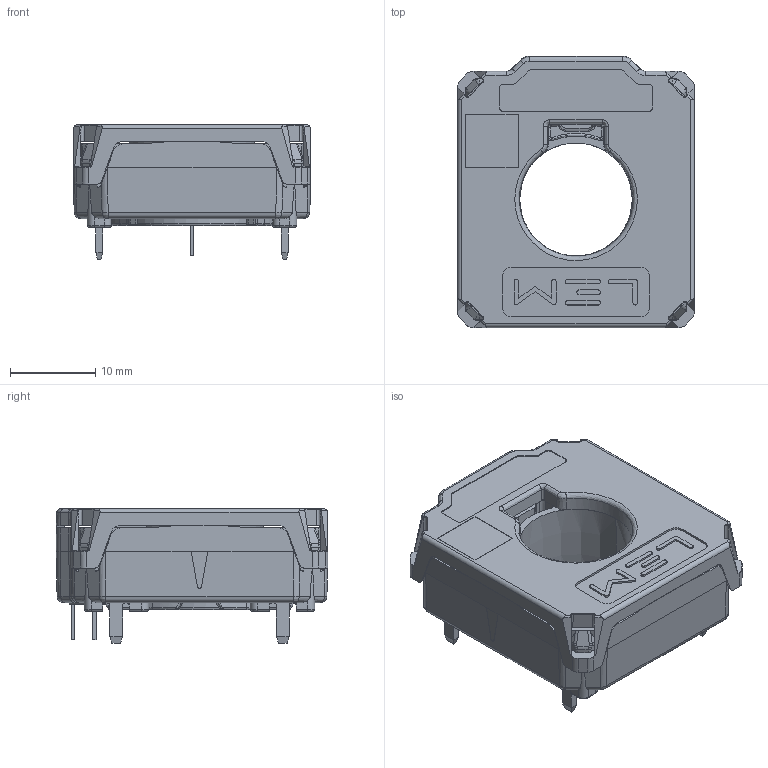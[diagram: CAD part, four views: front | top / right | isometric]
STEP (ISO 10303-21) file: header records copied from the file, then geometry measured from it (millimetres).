
FILE_DESCRIPTION(('Creo Elements/Direct Modeling STEP Export'),'2;1');
FILE_NAME('BBOX-HC5FL.stp','2024-08-01T10:34:32',(''),(''),'Creo Elements/Direct Modeling STEP processor for AP214 (Solid Model)','Creo Elements/Direct Modeling 20.3D 14-Nov-2022 (C) Parametric Technology GmbH','');
FILE_SCHEMA(('AUTOMOTIVE_DESIGN { 1 0 10303 214 1 1 1 1 }'));
Length unit declared in the file: millimetre
Products named in the file (2): HOUSING-ROTATE180_X2_5EA-374690.PRT
Assembly tree (1 placements, depth 2):
  HOUSING-ROTATE180_X2_5EA-374690.PRT
    HOUSING-ROTATE180_X2_5EA-374690.PRT
Bounding box: 27.7 x 31.75 x 15.76 mm (x, y, z)
Volume: 7438.9 mm3; surface area: 4948.4 mm2
Topology: 1 solids, 9 shells, 984 faces, 2616 edges, 1657 vertices
Faces by surface type: plane 500, cylinder 319, bspline 100, torus 40, cone 15, extrusion 8, sphere 2
Entity records: 41058 total; most frequent: CARTESIAN_POINT 17575, ORIENTED_EDGE 5228, DIRECTION 4449, EDGE_CURVE 2614, VERTEX_POINT 1657, VECTOR 1593, LINE 1585, AXIS2_PLACEMENT_3D 1428
